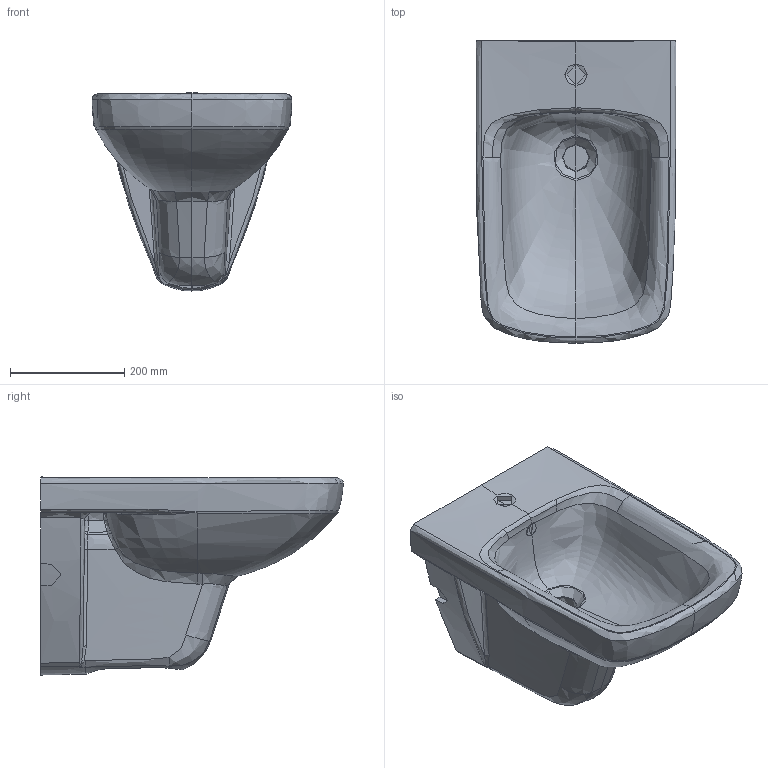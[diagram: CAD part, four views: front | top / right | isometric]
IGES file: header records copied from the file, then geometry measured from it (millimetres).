
Global section: file name: 500271; native system: Autodesk Inventor 2018; preprocessor: unknown; author: JANAN; date: 20200501.052135; units: millimetre
Bounding box: 350.01 x 530.02 x 346.82 mm (x, y, z)
Volume: 19758211.5 mm3; surface area: 772717.2 mm2
Topology: 1 solids, 1 shells, 233 faces, 562 edges, 335 vertices
Faces by surface type: bspline 233
